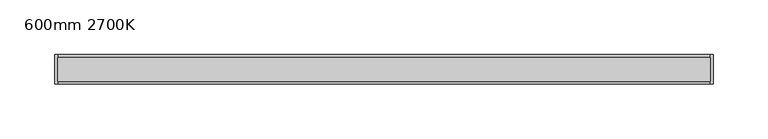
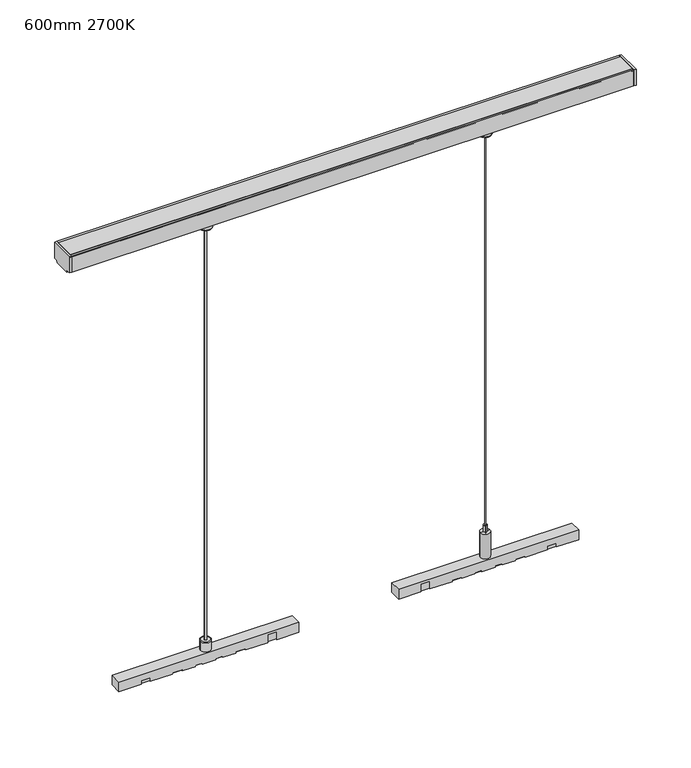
"""IFC4 building model written with IfcOpenShell, lengths in millimetres: light fixture geometry, ARTEMIDE-TurnAround-LinearModule : 600mm 2700K."""

from ifc_helpers import new_model, si_unit, point, frame, frame_2d, origin, origin_with_axes, place, context, project, spatial, polyline, circle_curve, ellipse_curve, trimmed, segment, composite_curve, outline, extrude, faceted_brep, source, transform, mapped, element, save
from ifc_brep_helpers import plane_surface, cylinder_surface, revolved_surface, advanced_brep


def light_fixture_600mm_2700k_620129ef(model_context):
    return source(origin(), model_context, "Body", "SolidModel", [
        extrude(outline(polyline([(-53.7584062, 5.3), (-53.7584062, -5.3), (-242.2415938, -5.3), (-242.2415938, 5.3), (-53.7584062, 5.3)])), frame((0.0, 0.0, -10.9), z_axis=(0.0, 0.0, 1.0), x_axis=(1.0, 0.0, 0.0)), (0.0, 0.0, 1.0), 9.9),
        faceted_brep([(-242.2415938, 5.3, -1.0), (-53.7584062, 5.3, -1.0), (-53.7584062, -5.3, -1.0), (-242.2415938, -5.3, -1.0), (-52.7584062, -6.3079367, 0.0), (-52.7584062, 6.3079367, 0.0), (-243.2415938, 6.3079367, 0.0), (-243.2415938, -6.3079367, 0.0), (-52.7584062, -6.3079367, -10.9), (-52.7584062, 6.3079367, -10.9), (-76.2508011, 6.3079367, -10.9), (-76.2508011, 6.3079367, -2.4235673), (-85.8249022, 6.3079367, -2.4235673), (-85.8249022, 6.3079367, -10.9), (-109.2881551, 6.3079367, -10.9), (-109.5261965, 6.3079367, -9.5497944), (-119.4738035, 6.3079367, -9.5497944), (-119.7118449, 6.3079367, -10.9), (-133.5881551, 6.3079367, -10.9), (-133.8261965, 6.3079367, -9.5497944), (-140.7622111, 6.3079367, -9.5497944), (-141.0002525, 6.3079367, -10.9), (-154.9997475, 6.3079367, -10.9), (-155.2377889, 6.3079367, -9.5497944), (-162.1738035, 6.3079367, -9.5497944), (-162.4118449, 6.3079367, -10.9), (-176.2881551, 6.3079367, -10.9), (-176.5261965, 6.3079367, -9.5497944), (-186.4738035, 6.3079367, -9.5497944), (-186.7118449, 6.3079367, -10.9), (-210.1750978, 6.3079367, -10.9), (-210.1750978, 6.3079367, -6.5241217), (-219.7491989, 6.3079367, -6.5241217), (-219.7491989, 6.3079367, -10.9), (-243.2415938, 6.3079367, -10.9), (-243.2415938, -6.3079367, -10.9), (-219.7491989, -6.3079367, -10.9), (-219.7491989, -6.3079367, -6.5241217), (-210.1750978, -6.3079367, -6.5241217), (-210.1750978, -6.3079367, -10.9), (-186.7118449, -6.3079367, -10.9), (-186.4738035, -6.3079367, -9.5497944), (-176.5261965, -6.3079367, -9.5497944), (-176.2881551, -6.3079367, -10.9), (-162.4118449, -6.3079367, -10.9), (-162.1738035, -6.3079367, -9.5497944), (-155.2377889, -6.3079367, -9.5497944), (-154.9997475, -6.3079367, -10.9), (-141.0002525, -6.3079367, -10.9), (-140.7622111, -6.3079367, -9.5497944), (-133.8261965, -6.3079367, -9.5497944), (-133.5881551, -6.3079367, -10.9), (-119.7118449, -6.3079367, -10.9), (-119.4738035, -6.3079367, -9.5497944), (-109.5261965, -6.3079367, -9.5497944), (-109.2881551, -6.3079367, -10.9), (-85.8249022, -6.3079367, -10.9), (-85.8249022, -6.3079367, -2.4235673), (-76.2508011, -6.3079367, -2.4235673), (-76.2508011, -6.3079367, -10.9), (-210.1750978, -5.3, -10.9), (-210.1750978, -5.3, -6.5241217), (-219.7491989, -5.3, -6.5241217), (-219.7491989, -5.3, -10.9), (-242.2415938, -5.3, -10.9), (-53.7584062, -5.3, -10.9), (-76.2508011, -5.3, -10.9), (-76.2508011, -5.3, -2.4235673), (-85.8249022, -5.3, -2.4235673), (-85.8249022, -5.3, -10.9), (-109.2881551, -5.3, -10.9), (-109.5261965, -5.3, -9.5497944), (-119.4738035, -5.3, -9.5497944), (-119.7118449, -5.3, -10.9), (-133.5881551, -5.3, -10.9), (-133.8261965, -5.3, -9.5497944), (-140.7622111, -5.3, -9.5497944), (-141.0002525, -5.3, -10.9), (-154.9997475, -5.3, -10.9), (-155.2377889, -5.3, -9.5497944), (-162.1738035, -5.3, -9.5497944), (-162.4118449, -5.3, -10.9), (-176.2881551, -5.3, -10.9), (-176.5261965, -5.3, -9.5497944), (-186.4738035, -5.3, -9.5497944), (-186.7118449, -5.3, -10.9), (-219.7491989, 5.3, -10.9), (-242.2415938, 5.3, -10.9), (-53.7584062, 5.3, -10.9), (-76.2508011, 5.3, -10.9), (-210.1750978, 5.3, -10.9), (-186.7118449, 5.3, -10.9), (-186.4738035, 5.3, -9.5497944), (-176.5261965, 5.3, -9.5497944), (-176.2881551, 5.3, -10.9), (-162.4118449, 5.3, -10.9), (-162.1738035, 5.3, -9.5497944), (-155.2377889, 5.3, -9.5497944), (-154.9997475, 5.3, -10.9), (-141.0002525, 5.3, -10.9), (-140.7622111, 5.3, -9.5497944), (-133.8261965, 5.3, -9.5497944), (-133.5881551, 5.3, -10.9), (-119.7118449, 5.3, -10.9), (-119.4738035, 5.3, -9.5497944), (-109.5261965, 5.3, -9.5497944), (-109.2881551, 5.3, -10.9), (-85.8249022, 5.3, -10.9), (-85.8249022, 5.3, -2.4235673), (-76.2508011, 5.3, -2.4235673), (-219.7491989, 5.3, -6.5241217), (-210.1750978, 5.3, -6.5241217)], [[[0, 1, 2, 3]], [[4, 5, 6, 7]], [[4, 8, 9, 5]], [[10, 11, 12, 13, 14, 15, 16, 17, 18, 19, 20, 21, 22, 23, 24, 25, 26, 27, 28, 29, 30, 31, 32, 33, 34, 6, 5, 9]], [[6, 34, 35, 7]], [[7, 35, 36, 37, 38, 39, 40, 41, 42, 43, 44, 45, 46, 47, 48, 49, 50, 51, 52, 53, 54, 55, 56, 57, 58, 59, 8, 4]], [[60, 61, 62, 63, 64, 3, 2, 65, 66, 67, 68, 69, 70, 71, 72, 73, 74, 75, 76, 77, 78, 79, 80, 81, 82, 83, 84, 85]], [[38, 61, 60, 39]], [[37, 62, 61, 38]], [[36, 63, 62, 37]], [[36, 35, 34, 33, 86, 87, 64, 63]], [[8, 59, 66, 65, 88, 89, 10, 9]], [[58, 67, 66, 59]], [[57, 68, 67, 58]], [[56, 69, 68, 57]], [[55, 70, 69, 56]], [[54, 71, 70, 55]], [[53, 72, 71, 54]], [[52, 73, 72, 53]], [[51, 74, 73, 52]], [[50, 75, 74, 51]], [[49, 76, 75, 50]], [[48, 77, 76, 49]], [[47, 78, 77, 48]], [[46, 79, 78, 47]], [[45, 80, 79, 46]], [[44, 81, 80, 45]], [[43, 82, 81, 44]], [[42, 83, 82, 43]], [[41, 84, 83, 42]], [[40, 85, 84, 41]], [[39, 60, 85, 40]], [[64, 87, 0, 3]], [[90, 91, 92, 93, 94, 95, 96, 97, 98, 99, 100, 101, 102, 103, 104, 105, 106, 107, 108, 109, 89, 88, 1, 0, 87, 86, 110, 111]], [[30, 90, 111, 31]], [[31, 111, 110, 32]], [[32, 110, 86, 33]], [[10, 89, 109, 11]], [[11, 109, 108, 12]], [[12, 108, 107, 13]], [[13, 107, 106, 14]], [[14, 106, 105, 15]], [[15, 105, 104, 16]], [[16, 104, 103, 17]], [[17, 103, 102, 18]], [[18, 102, 101, 19]], [[19, 101, 100, 20]], [[20, 100, 99, 21]], [[21, 99, 98, 22]], [[22, 98, 97, 23]], [[23, 97, 96, 24]], [[24, 96, 95, 25]], [[25, 95, 94, 26]], [[26, 94, 93, 27]], [[27, 93, 92, 28]], [[28, 92, 91, 29]], [[29, 91, 90, 30]], [[65, 2, 1, 88]]]),
        extrude(outline(polyline([(53.7584062, 5.3), (242.2415938, 5.3), (242.2415938, -5.3), (53.7584062, -5.3), (53.7584062, 5.3)])), frame((0.0, 0.0, -10.9), z_axis=(0.0, 0.0, 1.0), x_axis=(1.0, 0.0, 0.0)), (0.0, 0.0, 1.0), 9.9),
        faceted_brep([(242.2415938, 5.3, -1.0), (242.2415938, -5.3, -1.0), (53.7584062, -5.3, -1.0), (53.7584062, 5.3, -1.0), (52.7584062, -6.3079367, 0.0), (243.2415938, -6.3079367, 0.0), (243.2415938, 6.3079367, 0.0), (52.7584062, 6.3079367, 0.0), (52.7584062, 6.3079367, -10.9), (52.7584062, -6.3079367, -10.9), (76.2508011, 6.3079367, -10.9), (243.2415938, 6.3079367, -10.9), (219.7491989, 6.3079367, -10.9), (219.7491989, 6.3079367, -6.5241217), (210.1750978, 6.3079367, -6.5241217), (210.1750978, 6.3079367, -10.9), (186.7118449, 6.3079367, -10.9), (186.4738035, 6.3079367, -9.5497944), (176.5261965, 6.3079367, -9.5497944), (176.2881551, 6.3079367, -10.9), (162.4118449, 6.3079367, -10.9), (162.1738035, 6.3079367, -9.5497944), (155.2377889, 6.3079367, -9.5497944), (154.9997475, 6.3079367, -10.9), (141.0002525, 6.3079367, -10.9), (140.7622111, 6.3079367, -9.5497944), (133.8261965, 6.3079367, -9.5497944), (133.5881551, 6.3079367, -10.9), (119.7118449, 6.3079367, -10.9), (119.4738035, 6.3079367, -9.5497944), (109.5261965, 6.3079367, -9.5497944), (109.2881551, 6.3079367, -10.9), (85.8249022, 6.3079367, -10.9), (85.8249022, 6.3079367, -2.4235673), (76.2508011, 6.3079367, -2.4235673), (243.2415938, -6.3079367, -10.9), (76.2508011, -6.3079367, -10.9), (76.2508011, -6.3079367, -2.4235673), (85.8249022, -6.3079367, -2.4235673), (85.8249022, -6.3079367, -10.9), (109.2881551, -6.3079367, -10.9), (109.5261965, -6.3079367, -9.5497944), (119.4738035, -6.3079367, -9.5497944), (119.7118449, -6.3079367, -10.9), (133.5881551, -6.3079367, -10.9), (133.8261965, -6.3079367, -9.5497944), (140.7622111, -6.3079367, -9.5497944), (141.0002525, -6.3079367, -10.9), (154.9997475, -6.3079367, -10.9), (155.2377889, -6.3079367, -9.5497944), (162.1738035, -6.3079367, -9.5497944), (162.4118449, -6.3079367, -10.9), (176.2881551, -6.3079367, -10.9), (176.5261965, -6.3079367, -9.5497944), (186.4738035, -6.3079367, -9.5497944), (186.7118449, -6.3079367, -10.9), (210.1750978, -6.3079367, -10.9), (210.1750978, -6.3079367, -6.5241217), (219.7491989, -6.3079367, -6.5241217), (219.7491989, -6.3079367, -10.9), (210.1750978, -5.3, -10.9), (186.7118449, -5.3, -10.9), (186.4738035, -5.3, -9.5497944), (176.5261965, -5.3, -9.5497944), (176.2881551, -5.3, -10.9), (162.4118449, -5.3, -10.9), (162.1738035, -5.3, -9.5497944), (155.2377889, -5.3, -9.5497944), (154.9997475, -5.3, -10.9), (141.0002525, -5.3, -10.9), (140.7622111, -5.3, -9.5497944), (133.8261965, -5.3, -9.5497944), (133.5881551, -5.3, -10.9), (119.7118449, -5.3, -10.9), (119.4738035, -5.3, -9.5497944), (109.5261965, -5.3, -9.5497944), (109.2881551, -5.3, -10.9), (85.8249022, -5.3, -10.9), (85.8249022, -5.3, -2.4235673), (76.2508011, -5.3, -2.4235673), (76.2508011, -5.3, -10.9), (53.7584062, -5.3, -10.9), (242.2415938, -5.3, -10.9), (219.7491989, -5.3, -10.9), (219.7491989, -5.3, -6.5241217), (210.1750978, -5.3, -6.5241217), (242.2415938, 5.3, -10.9), (219.7491989, 5.3, -10.9), (76.2508011, 5.3, -10.9), (53.7584062, 5.3, -10.9), (210.1750978, 5.3, -10.9), (210.1750978, 5.3, -6.5241217), (219.7491989, 5.3, -6.5241217), (76.2508011, 5.3, -2.4235673), (85.8249022, 5.3, -2.4235673), (85.8249022, 5.3, -10.9), (109.2881551, 5.3, -10.9), (109.5261965, 5.3, -9.5497944), (119.4738035, 5.3, -9.5497944), (119.7118449, 5.3, -10.9), (133.5881551, 5.3, -10.9), (133.8261965, 5.3, -9.5497944), (140.7622111, 5.3, -9.5497944), (141.0002525, 5.3, -10.9), (154.9997475, 5.3, -10.9), (155.2377889, 5.3, -9.5497944), (162.1738035, 5.3, -9.5497944), (162.4118449, 5.3, -10.9), (176.2881551, 5.3, -10.9), (176.5261965, 5.3, -9.5497944), (186.4738035, 5.3, -9.5497944), (186.7118449, 5.3, -10.9)], [[[0, 1, 2, 3]], [[4, 5, 6, 7]], [[4, 7, 8, 9]], [[10, 8, 7, 6, 11, 12, 13, 14, 15, 16, 17, 18, 19, 20, 21, 22, 23, 24, 25, 26, 27, 28, 29, 30, 31, 32, 33, 34]], [[6, 5, 35, 11]], [[5, 4, 9, 36, 37, 38, 39, 40, 41, 42, 43, 44, 45, 46, 47, 48, 49, 50, 51, 52, 53, 54, 55, 56, 57, 58, 59, 35]], [[60, 61, 62, 63, 64, 65, 66, 67, 68, 69, 70, 71, 72, 73, 74, 75, 76, 77, 78, 79, 80, 81, 2, 1, 82, 83, 84, 85]], [[57, 56, 60, 85]], [[58, 57, 85, 84]], [[59, 58, 84, 83]], [[59, 83, 82, 86, 87, 12, 11, 35]], [[9, 8, 10, 88, 89, 81, 80, 36]], [[37, 36, 80, 79]], [[38, 37, 79, 78]], [[39, 38, 78, 77]], [[40, 39, 77, 76]], [[41, 40, 76, 75]], [[42, 41, 75, 74]], [[43, 42, 74, 73]], [[44, 43, 73, 72]], [[45, 44, 72, 71]], [[46, 45, 71, 70]], [[47, 46, 70, 69]], [[48, 47, 69, 68]], [[49, 48, 68, 67]], [[50, 49, 67, 66]], [[51, 50, 66, 65]], [[52, 51, 65, 64]], [[53, 52, 64, 63]], [[54, 53, 63, 62]], [[55, 54, 62, 61]], [[56, 55, 61, 60]], [[82, 1, 0, 86]], [[90, 91, 92, 87, 86, 0, 3, 89, 88, 93, 94, 95, 96, 97, 98, 99, 100, 101, 102, 103, 104, 105, 106, 107, 108, 109, 110, 111]], [[15, 14, 91, 90]], [[14, 13, 92, 91]], [[13, 12, 87, 92]], [[10, 34, 93, 88]], [[34, 33, 94, 93]], [[33, 32, 95, 94]], [[32, 31, 96, 95]], [[31, 30, 97, 96]], [[30, 29, 98, 97]], [[29, 28, 99, 98]], [[28, 27, 100, 99]], [[27, 26, 101, 100]], [[26, 25, 102, 101]], [[25, 24, 103, 102]], [[24, 23, 104, 103]], [[23, 22, 105, 104]], [[22, 21, 106, 105]], [[21, 20, 107, 106]], [[20, 19, 108, 107]], [[19, 18, 109, 108]], [[18, 17, 110, 109]], [[17, 16, 111, 110]], [[16, 15, 90, 111]], [[81, 89, 3, 2]]]),
        extrude(outline(composite_curve([segment(polyline([(11.0, 500.0), (11.0, 498.6), (12.1, 498.6)]), True, "CONTINUOUS"), segment(trimmed(circle_curve(frame_2d((10.475, 498.6)), 1.625), [point((12.1, 498.6))], [point((11.1, 497.1))], False, "CARTESIAN"), True, "CONTINUOUS"), segment(polyline([(11.1, 497.1), (10.1, 497.1), (10.1, 498.6), (-10.1, 498.6), (-10.1, 497.1), (-11.1, 497.1)]), True, "CONTINUOUS"), segment(trimmed(circle_curve(frame_2d((-10.475, 498.6)), 1.625), [point((-11.1, 497.1))], [point((-12.1, 498.6))], False, "CARTESIAN"), True, "CONTINUOUS"), segment(polyline([(-12.1, 498.6), (-11.0, 498.6), (-11.0, 500.0), (11.0, 500.0)]), True, "CONTINUOUS")], self_intersect=False)), frame((-297.5, 0.0, 0.0), z_axis=(1.0, 0.0, 0.0), x_axis=(0.0, 1.0, 0.0)), (0.0, 0.0, 1.0), 595.0),
        extrude(outline(polyline([(-8.512462, 480.0), (-9.3007345, 482.165761), (-13.5, 482.165761), (-13.5, 500.0), (13.5, 500.0), (13.5, 482.165761), (9.3007345, 482.165761), (8.512462, 480.0), (-8.512462, 480.0)])), frame((297.5, 0.0, 0.0), z_axis=(1.0, 0.0, 0.0), x_axis=(0.0, 1.0, 0.0)), (0.0, 0.0, 1.0), 2.5),
        extrude(outline(polyline([(-8.512462, 480.0), (-9.3007345, 482.165761), (-13.5, 482.165761), (-13.5, 500.0), (13.5, 500.0), (13.5, 482.165761), (9.3007345, 482.165761), (8.512462, 480.0), (-8.512462, 480.0)])), frame((-300.0, 0.0, 0.0), z_axis=(1.0, 0.0, 0.0), x_axis=(0.0, 1.0, 0.0)), (0.0, 0.0, 1.0), 2.5),
        extrude(outline(composite_curve([segment(polyline([(-13.5, 482.165761), (-13.5, 500.0), (-11.0, 500.0), (-11.0, 498.6), (-12.1, 498.6), (-12.1, 496.6), (-10.4, 496.6), (-10.4, 495.6), (-12.0360994, 495.6)]), True, "CONTINUOUS"), segment(trimmed(circle_curve(frame_2d((-12.0360994, 495.2571766)), 0.3428234), [point((-12.0360994, 495.6))], [point((-12.2868246, 495.0233716))], True, "CARTESIAN"), True, "CONTINUOUS"), segment(polyline([(-12.2868246, 495.0233716), (-10.4, 493.0)]), True, "CONTINUOUS"), segment(trimmed(circle_curve(frame_2d((-10.9465343, 492.7267827)), 0.6110217), [point((-10.4, 493.0))], [point((-10.9465343, 492.115761))], False, "CARTESIAN"), True, "CONTINUOUS"), segment(polyline([(-10.9465343, 492.115761), (-11.7, 491.815761), (-11.7, 483.965761), (11.7, 483.965761), (11.7, 491.815761), (10.9465343, 492.115761)]), True, "CONTINUOUS"), segment(trimmed(circle_curve(frame_2d((10.9465343, 492.7267827)), 0.6110217), [point((10.9465343, 492.115761))], [point((10.4, 493.0))], False, "CARTESIAN"), True, "CONTINUOUS"), segment(polyline([(10.4, 493.0), (12.2868246, 495.0233716)]), True, "CONTINUOUS"), segment(trimmed(circle_curve(frame_2d((12.0360994, 495.2571766)), 0.3428234), [point((12.2868246, 495.0233716))], [point((12.0360994, 495.6))], True, "CARTESIAN"), True, "CONTINUOUS"), segment(polyline([(12.0360994, 495.6), (10.4, 495.6), (10.4, 496.6), (12.1, 496.6), (12.1, 498.6), (11.0, 498.6), (11.0, 500.0), (13.5, 500.0), (13.5, 482.165761), (9.3007345, 482.165761), (8.512462, 480.0), (-8.512462, 480.0), (-9.3007345, 482.165761), (-13.5, 482.165761)]), True, "CONTINUOUS")], self_intersect=False)), frame((-297.5, 0.0, 0.0), z_axis=(1.0, 0.0, 0.0), x_axis=(0.0, 1.0, 0.0)), (0.0, 0.0, 1.0), 595.0),
        advanced_brep(
        [(152.5000028, 0.0, 472.1), (143.5000028, 0.0, 472.1), (147.6000028, 0.0, 472.1), (148.4000028, 0.0, 472.1), (141.5000028, 0.0, 480.0), (154.5000028, 0.0, 480.0), (147.6000028, 0.0, 480.0), (148.4000028, 0.0, 480.0), (141.5000028, 0.0, 474.1), (154.5000028, 0.0, 474.1)],
        [
            (0, 1, circle_curve(frame((148.0000028, 0.0, 472.1), z_axis=(0.0, 0.0, -1.0), x_axis=(-1.0, 6.106023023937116e-10, 0.0)), 4.5)),
            (1, 0, circle_curve(frame((148.0000028, 0.0, 472.1), z_axis=(0.0, 0.0, -1.0), x_axis=(1.0, -6.105932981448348e-10, 0.0)), 4.5)),
            (2, 3, circle_curve(frame((148.0000028, 0.0, 472.1), z_axis=(0.0, 0.0, 1.0), x_axis=(1.0, -6.10598627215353e-10, 0.0)), 0.4)),
            (3, 2, circle_curve(frame((148.0000028, 0.0, 472.1), z_axis=(0.0, 0.0, 1.0), x_axis=(1.0, -6.10598627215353e-10, 0.0)), 0.4)),
            (4, 5, circle_curve(frame((148.0000028, 0.0, 480.0), z_axis=(0.0, 0.0, 1.0), x_axis=(1.0, -6.10598627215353e-10, 0.0)), 6.5)),
            (5, 4, circle_curve(frame((148.0000028, 0.0, 480.0), z_axis=(0.0, 0.0, 1.0), x_axis=(1.0, -6.10598627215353e-10, 0.0)), 6.5)),
            (6, 7, circle_curve(frame((148.0000028, 0.0, 480.0), z_axis=(0.0, 0.0, -1.0), x_axis=(1.0, -6.10598627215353e-10, 0.0)), 0.4)),
            (7, 6, circle_curve(frame((148.0000028, 0.0, 480.0), z_axis=(0.0, 0.0, -1.0), x_axis=(1.0, -6.10598627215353e-10, 0.0)), 0.4)),
            (4, 8),
            (8, 9, circle_curve(frame((148.0000028, 0.0, 474.1), z_axis=(0.0, 0.0, 1.0), x_axis=(1.0, -6.10598627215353e-10, 0.0)), 6.5)),
            (9, 5),
            (9, 8, circle_curve(frame((148.0000028, 0.0, 474.1), z_axis=(0.0, 0.0, 1.0), x_axis=(1.0, -6.10598627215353e-10, 0.0)), 6.5)),
            (3, 7),
            (6, 2),
            (0, 9, circle_curve(frame((152.5000028, 0.0, 474.1), z_axis=(-6.105997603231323e-10, -1.0, 0.0), x_axis=(1.0, -6.105997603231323e-10, 0.0)), 2.0)),
            (8, 1, circle_curve(frame((143.5000028, 0.0, 474.1), z_axis=(-6.106023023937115e-10, -1.0, 0.0), x_axis=(-1.0, 6.106023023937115e-10, 0.0)), 2.0)),
        ],
        [
            plane_surface(frame((148.0000028, 0.0, 472.1), z_axis=(0.0, 0.0, -1.0), x_axis=(6.10598627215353e-10, 1.0, 0.0))),
            plane_surface(frame((148.0000028, 0.0, 480.0), z_axis=(0.0, 0.0, 1.0), x_axis=(6.10598627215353e-10, 1.0, 0.0))),
            cylinder_surface(frame((148.0000028, 0.0, 472.1), z_axis=(0.0, 0.0, -1.0), x_axis=(1.0, -6.10598627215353e-10, 0.0)), 6.5),
            revolved_surface(polyline([(148.4000028, -2.442394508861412e-10, 480.0), (148.4000028, -2.442394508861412e-10, 472.1)]), (148.0000028, 0.0, 472.1), (0.0, 0.0, 1.0)),
            revolved_surface(trimmed(ellipse_curve(frame((143.5000028, 0.0, 474.1), z_axis=(6.106023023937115e-10, 1.0, 0.0), x_axis=(-1.0, 6.106023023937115e-10, 0.0)), 2.0, 2.0), [point((143.5000028, 0.0, 472.1))], [point((141.5000028, 0.0, 474.1))], True, "CARTESIAN"), (148.0000028, 0.0, 472.1), (0.0, 0.0, 1.0)),
            revolved_surface(trimmed(ellipse_curve(frame((152.5000028, 0.0, 474.1), z_axis=(-6.105932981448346e-10, -1.0, 0.0), x_axis=(1.0, -6.105932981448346e-10, 0.0)), 2.0, 2.0), [point((152.5000028, 0.0, 472.1))], [point((154.5000028, 0.0, 474.1))], True, "CARTESIAN"), (148.0000028, 0.0, 472.1), (0.0, 0.0, 1.0)),
        ],
        [
            (0, [[1, 2], [3, 4]]),
            (1, [[5, 6], [7, 8]]),
            (2, [[-5, 9, 10, 11]]),
            (2, [[-6, -11, 12, -9]]),
            (3, [[-4, 13, -7, 14]]),
            (3, [[-3, -14, -8, -13]]),
            (4, [[15, -10, 16, -1]]),
            (5, [[-15, -2, -16, -12]]),
        ],
    ),
        extrude(outline(composite_curve([segment(trimmed(circle_curve(frame_2d((148.0, 0.0)), 0.4), [point((147.6, 0.0))], [point((148.4, 0.0))], False, "CARTESIAN"), True, "CONTINUOUS"), segment(trimmed(circle_curve(frame_2d((148.0, 0.0)), 0.4), [point((148.4, 0.0))], [point((147.6, 0.0))], False, "CARTESIAN"), True, "CONTINUOUS")], self_intersect=False)), origin_with_axes(), (0.0, 0.0, 1.0), 480.0),
        advanced_brep(
        [(153.0, 0.0, 0.0), (143.0, 0.0, 0.0), (147.6, 0.0, 0.0), (148.4, 0.0, 0.0), (149.95, 0.0, 27.9750024), (146.05, 0.0, 27.9750024), (143.0, 0.0, 27.9750024), (153.0, 0.0, 27.9750024), (147.6, 0.0, 34.9750024), (148.4, 0.0, 34.9750024), (149.95, 0.0, 34.9750024), (146.05, 0.0, 34.9750024)],
        [
            (0, 1, circle_curve(frame((148.0, 0.0, 0.0), z_axis=(0.0, 0.0, -1.0), x_axis=(-1.0, -1.0410561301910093e-11, 0.0)), 5.0)),
            (1, 2),
            (2, 3, circle_curve(frame((148.0, 0.0, 0.0), z_axis=(0.0, 0.0, 1.0), x_axis=(-1.0, -1.0410561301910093e-11, 0.0)), 0.4)),
            (3, 0),
            (1, 0, circle_curve(frame((148.0, 0.0, 0.0), z_axis=(0.0, 0.0, -1.0), x_axis=(-1.0, -1.0410561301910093e-11, 0.0)), 5.0)),
            (3, 2, circle_curve(frame((148.0, 0.0, 0.0), z_axis=(0.0, 0.0, 1.0), x_axis=(-1.0, -1.0410561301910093e-11, 0.0)), 0.4)),
            (4, 5, circle_curve(frame((148.0, 0.0, 27.9750024), z_axis=(0.0, 0.0, -1.0), x_axis=(-1.0, -1.0410561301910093e-11, 0.0)), 1.95)),
            (5, 6),
            (6, 7, circle_curve(frame((148.0, 0.0, 27.9750024), z_axis=(0.0, 0.0, 1.0), x_axis=(-1.0, -1.0410561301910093e-11, 0.0)), 5.0)),
            (7, 4),
            (5, 4, circle_curve(frame((148.0, 0.0, 27.9750024), z_axis=(0.0, 0.0, -1.0), x_axis=(-1.0, -1.0410561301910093e-11, 0.0)), 1.95)),
            (7, 6, circle_curve(frame((148.0, 0.0, 27.9750024), z_axis=(0.0, 0.0, 1.0), x_axis=(-1.0, -1.0410561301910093e-11, 0.0)), 5.0)),
            (6, 1),
            (0, 7),
            (2, 8),
            (8, 9, circle_curve(frame((148.0, 0.0, 34.9750024), z_axis=(0.0, 0.0, 1.0), x_axis=(-1.0, -1.0410561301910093e-11, 0.0)), 0.4)),
            (9, 3),
            (9, 8, circle_curve(frame((148.0, 0.0, 34.9750024), z_axis=(0.0, 0.0, 1.0), x_axis=(-1.0, -1.0410561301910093e-11, 0.0)), 0.4)),
            (10, 11, circle_curve(frame((148.0, 0.0, 34.9750024), z_axis=(0.0, 0.0, -1.0), x_axis=(-1.0, -1.0410561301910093e-11, 0.0)), 1.95)),
            (11, 5),
            (4, 10),
            (11, 10, circle_curve(frame((148.0, 0.0, 34.9750024), z_axis=(0.0, 0.0, -1.0), x_axis=(-1.0, -1.0410561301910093e-11, 0.0)), 1.95)),
            (8, 11),
            (10, 9),
        ],
        [
            plane_surface(frame((148.0, 0.0, 0.0), z_axis=(0.0, 0.0, -1.0), x_axis=(-1.0, -1.0410561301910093e-11, 0.0))),
            plane_surface(frame((148.0, 0.0, 27.9750024), z_axis=(0.0, 0.0, 1.0), x_axis=(-1.0, -1.0410561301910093e-11, 0.0))),
            cylinder_surface(frame((148.0, 0.0, 0.0), z_axis=(0.0, 0.0, 1.0), x_axis=(-1.0, -1.0410561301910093e-11, 0.0)), 5.0),
            revolved_surface(polyline([(147.6, -4.164224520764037e-12, 34.9750024), (147.6, -4.164224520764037e-12, 0.0)]), (148.0, 0.0, 0.0), (0.0, 0.0, 1.0)),
            cylinder_surface(frame((148.0, 0.0, 0.0), z_axis=(0.0, 0.0, 1.0), x_axis=(-1.0, -1.0410561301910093e-11, 0.0)), 1.95),
            plane_surface(frame((148.0, 0.0, 34.9750024), z_axis=(0.0, 0.0, 1.0), x_axis=(-1.0, -1.0410561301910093e-11, 0.0))),
        ],
        [
            (0, [[1, 2, 3, 4]]),
            (0, [[5, -4, 6, -2]]),
            (1, [[7, 8, 9, 10]]),
            (1, [[11, -10, 12, -8]]),
            (2, [[-9, 13, -1, 14]]),
            (2, [[-12, -14, -5, -13]]),
            (3, [[-3, 15, 16, 17]]),
            (3, [[-6, -17, 18, -15]]),
            (4, [[19, 20, -7, 21]]),
            (4, [[22, -21, -11, -20]]),
            (5, [[-16, 23, -19, 24]]),
            (5, [[-18, -24, -22, -23]]),
        ],
    ),
        advanced_brep(
        [(-153.5, 0.0, 472.1), (-142.5, 0.0, 472.1), (-146.65, 0.0, 472.1), (-149.35, 0.0, 472.1), (-141.5, 0.0, 480.0), (-154.5, 0.0, 480.0), (-146.65, 0.0, 480.0), (-149.35, 0.0, 480.0), (-141.5, 0.0, 473.1), (-154.5, 0.0, 473.1)],
        [
            (0, 1, circle_curve(frame((-148.0, 0.0, 472.1), z_axis=(0.0, 0.0, -1.0), x_axis=(1.0, 0.0, 0.0)), 5.5)),
            (1, 0, circle_curve(frame((-148.0, 0.0, 472.1), z_axis=(0.0, 0.0, -1.0), x_axis=(-1.0, 0.0, 0.0)), 5.5)),
            (2, 3, circle_curve(frame((-148.0, 0.0, 472.1), z_axis=(0.0, 0.0, 1.0), x_axis=(-1.0, 0.0, 0.0)), 1.35)),
            (3, 2, circle_curve(frame((-148.0, 0.0, 472.1), z_axis=(0.0, 0.0, 1.0), x_axis=(-1.0, 0.0, 0.0)), 1.35)),
            (4, 5, circle_curve(frame((-148.0, 0.0, 480.0), z_axis=(0.0, 0.0, 1.0), x_axis=(-1.0, 0.0, 0.0)), 6.5)),
            (5, 4, circle_curve(frame((-148.0, 0.0, 480.0), z_axis=(0.0, 0.0, 1.0), x_axis=(-1.0, 0.0, 0.0)), 6.5)),
            (6, 7, circle_curve(frame((-148.0, 0.0, 480.0), z_axis=(0.0, 0.0, -1.0), x_axis=(-1.0, 0.0, 0.0)), 1.35)),
            (7, 6, circle_curve(frame((-148.0, 0.0, 480.0), z_axis=(0.0, 0.0, -1.0), x_axis=(-1.0, 0.0, 0.0)), 1.35)),
            (4, 8),
            (8, 9, circle_curve(frame((-148.0, 0.0, 473.1), z_axis=(0.0, 0.0, 1.0), x_axis=(-1.0, 0.0, 0.0)), 6.5)),
            (9, 5),
            (9, 8, circle_curve(frame((-148.0, 0.0, 473.1), z_axis=(0.0, 0.0, 1.0), x_axis=(-1.0, 0.0, 0.0)), 6.5)),
            (3, 7),
            (6, 2),
            (0, 9, circle_curve(frame((-153.5, 0.0, 473.1), z_axis=(0.0, 1.0, 0.0), x_axis=(-1.0, 0.0, 0.0)), 1.0)),
            (8, 1, circle_curve(frame((-142.5, 0.0, 473.1), z_axis=(0.0, 1.0, 0.0), x_axis=(1.0, 0.0, 0.0)), 1.0)),
        ],
        [
            plane_surface(frame((-148.0, 0.0, 472.1), z_axis=(0.0, 0.0, -1.0), x_axis=(0.0, -1.0, 0.0))),
            plane_surface(frame((-148.0, 0.0, 480.0), z_axis=(0.0, 0.0, 1.0), x_axis=(0.0, -1.0, 0.0))),
            cylinder_surface(frame((-148.0, 0.0, 472.1), z_axis=(0.0, 0.0, -1.0), x_axis=(-1.0, 0.0, 0.0)), 6.5),
            revolved_surface(polyline([(-149.35, 0.0, 480.0), (-149.35, 0.0, 472.1)]), (-148.0, 0.0, 472.1), (0.0, 0.0, 1.0)),
            revolved_surface(trimmed(ellipse_curve(frame((-142.5, 0.0, 473.1), z_axis=(0.0, -1.0, 0.0), x_axis=(1.0, 0.0, 0.0)), 1.0, 1.0), [point((-142.5, 0.0, 472.1))], [point((-141.5, 0.0, 473.1))], True, "CARTESIAN"), (-148.0, 0.0, 472.1), (0.0, 0.0, 1.0)),
            revolved_surface(trimmed(ellipse_curve(frame((-153.5, 0.0, 473.1), z_axis=(0.0, 1.0, 0.0), x_axis=(-1.0, 0.0, 0.0)), 1.0, 1.0), [point((-153.5, 0.0, 472.1))], [point((-154.5, 0.0, 473.1))], True, "CARTESIAN"), (-148.0, 0.0, 472.1), (0.0, 0.0, 1.0)),
        ],
        [
            (0, [[1, 2], [3, 4]]),
            (1, [[5, 6], [7, 8]]),
            (2, [[-5, 9, 10, 11]]),
            (2, [[-6, -11, 12, -9]]),
            (3, [[-4, 13, -7, 14]]),
            (3, [[-3, -14, -8, -13]]),
            (4, [[15, -10, 16, -1]]),
            (5, [[-15, -2, -16, -12]]),
        ],
    ),
        advanced_brep(
        [(-142.5, 0.0, 0.0), (-153.5, 0.0, 0.0), (-146.65, 0.0, 0.0), (-149.35, 0.0, 0.0), (-143.5, 0.0, 11.0275761), (-152.5, 0.0, 11.0275761), (-146.65, 0.0, 11.0275761), (-149.35, 0.0, 11.0275761), (-153.5, 0.0, 10.0275761), (-142.5, 0.0, 10.0275761)],
        [
            (0, 1, circle_curve(frame((-148.0, 0.0, 0.0), z_axis=(0.0, 0.0, -1.0), x_axis=(-1.0, 0.0, 0.0)), 5.5)),
            (1, 0, circle_curve(frame((-148.0, 0.0, 0.0), z_axis=(0.0, 0.0, -1.0), x_axis=(-1.0, 0.0, 0.0)), 5.5)),
            (2, 3, circle_curve(frame((-148.0, 0.0, 0.0), z_axis=(0.0, 0.0, 1.0), x_axis=(-1.0, 0.0, 0.0)), 1.35)),
            (3, 2, circle_curve(frame((-148.0, 0.0, 0.0), z_axis=(0.0, 0.0, 1.0), x_axis=(-1.0, 0.0, 0.0)), 1.35)),
            (4, 5, circle_curve(frame((-148.0, 0.0, 11.0275761), z_axis=(0.0, 0.0, 1.0), x_axis=(-1.0, 0.0, 0.0)), 4.5)),
            (5, 4, circle_curve(frame((-148.0, 0.0, 11.0275761), z_axis=(0.0, 0.0, 1.0), x_axis=(1.0, 0.0, 0.0)), 4.5)),
            (6, 7, circle_curve(frame((-148.0, 0.0, 11.0275761), z_axis=(0.0, 0.0, -1.0), x_axis=(-1.0, 0.0, 0.0)), 1.35)),
            (7, 6, circle_curve(frame((-148.0, 0.0, 11.0275761), z_axis=(0.0, 0.0, -1.0), x_axis=(-1.0, 0.0, 0.0)), 1.35)),
            (1, 8),
            (8, 9, circle_curve(frame((-148.0, 0.0, 10.0275761), z_axis=(0.0, 0.0, -1.0), x_axis=(-1.0, 0.0, 0.0)), 5.5)),
            (9, 0),
            (9, 8, circle_curve(frame((-148.0, 0.0, 10.0275761), z_axis=(0.0, 0.0, -1.0), x_axis=(-1.0, 0.0, 0.0)), 5.5)),
            (3, 7),
            (6, 2),
            (4, 9, circle_curve(frame((-143.5, 0.0, 10.0275761), z_axis=(0.0, 1.0, 0.0), x_axis=(1.0, 0.0, 0.0)), 1.0)),
            (8, 5, circle_curve(frame((-152.5, 0.0, 10.0275761), z_axis=(0.0, 1.0, 0.0), x_axis=(-1.0, 0.0, 0.0)), 1.0)),
        ],
        [
            plane_surface(frame((-148.0, 0.0, 0.0), z_axis=(0.0, 0.0, -1.0), x_axis=(0.0, -1.0, 0.0))),
            plane_surface(frame((-148.0, 0.0, 11.0275761), z_axis=(0.0, 0.0, 1.0), x_axis=(0.0, -1.0, 0.0))),
            cylinder_surface(frame((-148.0, 0.0, 0.0), z_axis=(0.0, 0.0, -1.0), x_axis=(-1.0, 0.0, 0.0)), 5.5),
            revolved_surface(polyline([(-149.35, 0.0, 11.0275761), (-149.35, 0.0, 0.0)]), (-148.0, 0.0, 0.0), (0.0, 0.0, 1.0)),
            revolved_surface(trimmed(ellipse_curve(frame((-152.5, 0.0, 10.0275761), z_axis=(0.0, -1.0, 0.0), x_axis=(-1.0, 0.0, 0.0)), 1.0, 1.0), [point((-152.5, 0.0, 11.0275761))], [point((-153.5, 0.0, 10.0275761))], True, "CARTESIAN"), (-148.0, 0.0, 11.0275761), (0.0, 0.0, -1.0)),
            revolved_surface(trimmed(ellipse_curve(frame((-143.5, 0.0, 10.0275761), z_axis=(0.0, 1.0, 0.0), x_axis=(1.0, 0.0, 0.0)), 1.0, 1.0), [point((-143.5, 0.0, 11.0275761))], [point((-142.5, 0.0, 10.0275761))], True, "CARTESIAN"), (-148.0, 0.0, 11.0275761), (0.0, 0.0, -1.0)),
        ],
        [
            (0, [[1, 2], [3, 4]]),
            (1, [[5, 6], [7, 8]]),
            (2, [[-2, 9, 10, 11]]),
            (2, [[-1, -11, 12, -9]]),
            (3, [[-4, 13, -7, 14]]),
            (3, [[-3, -14, -8, -13]]),
            (4, [[15, -10, 16, -5]]),
            (5, [[-15, -6, -16, -12]]),
        ],
    ),
        extrude(outline(composite_curve([segment(trimmed(circle_curve(frame_2d((-148.0, 0.0)), 1.35), [point((-146.65, 0.0))], [point((-149.35, 0.0))], False, "CARTESIAN"), True, "CONTINUOUS"), segment(trimmed(circle_curve(frame_2d((-148.0, 0.0)), 1.35), [point((-149.35, 0.0))], [point((-146.65, 0.0))], False, "CARTESIAN"), True, "CONTINUOUS")], self_intersect=False)), origin_with_axes(), (0.0, 0.0, 1.0), 480.0),
    ])


if __name__ == "__main__":
    model = new_model("IFC4")
    model_context = context("Model", 3, world=origin())
    ifc_project = project(units=[si_unit("LENGTHUNIT", "METRE", prefix="MILLI")], contexts=[model_context])
    site = spatial("IfcSite", under=ifc_project)
    building = spatial("IfcBuilding", under=site)
    placement = place(None, origin())
    light_fixture_600mm_2700k_shape = light_fixture_600mm_2700k_620129ef(model_context)
    element("IfcLightFixture", 1, ObjectType="ARTEMIDE-TurnAround-LinearModule : 600mm 2700K", at=placement, inside=building, context=model_context, shape_type="MappedRepresentation", body=[
        mapped(light_fixture_600mm_2700k_shape, transform((0.0, 0.0, 0.0), x_axis=(1.0, 0.0, 0.0), y_axis=(0.0, 1.0, 0.0), z_axis=(0.0, 0.0, 1.0))),
    ])
    save(model, "model.ifc")
